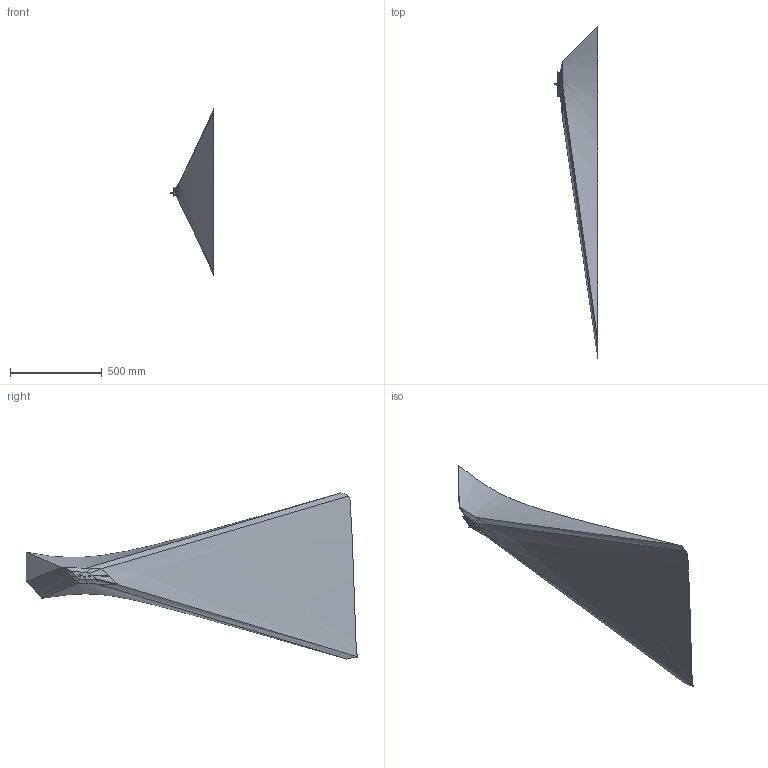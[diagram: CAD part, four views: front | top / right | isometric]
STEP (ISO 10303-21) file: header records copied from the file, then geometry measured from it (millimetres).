
FILE_DESCRIPTION(('CATIA V5 STEP Exchange','CAx-IF Rec.Pracs.--- Model Styling and Organization---1.5--- 2016-08-15','CAx-IF Rec.Pracs.---Supplemental Geometry---1.0---2011-11-01','CAx-IF Rec.Pracs.--- Composite Materials ---1.1---2010-07-15'),'2;1');
FILE_NAME('E:\tmp\ddx\2011204\3D_data_LED_position_lamp_SHAPELINE_style_horizontal_2PF 013 324.stp','2022-01-18T07:37:14+00:00',('none'),('none'),'CATIA Version 5-6 Release 2020 SP3 HF9','CATIA V5 STEP AP214 Edition 3 v2','none');
FILE_SCHEMA(('AUTOMOTIVE_DESIGN { 1 0 10303 214 3 1 1 1 }'));
Length unit declared in the file: millimetre
Products named in the file (1): 10001749715_D10_001
Bounding box: 237.1 x 1809.52 x 905.27 mm (x, y, z)
Volume: 58325.1 mm3; surface area: 1185423.3 mm2
Topology: 1 solids, 2 shells, 459 faces, 1083 edges, 625 vertices
Faces by surface type: bspline 263, cylinder 84, plane 56, cone 22, torus 22, sphere 8, extrusion 4
Entity records: 27073 total; most frequent: CARTESIAN_POINT 19166, ORIENTED_EDGE 2125, EDGE_CURVE 1072, B_SPLINE_CURVE_WITH_KNOTS 724, DIRECTION 672, VERTEX_POINT 625, EDGE_LOOP 471, ADVANCED_FACE 459
